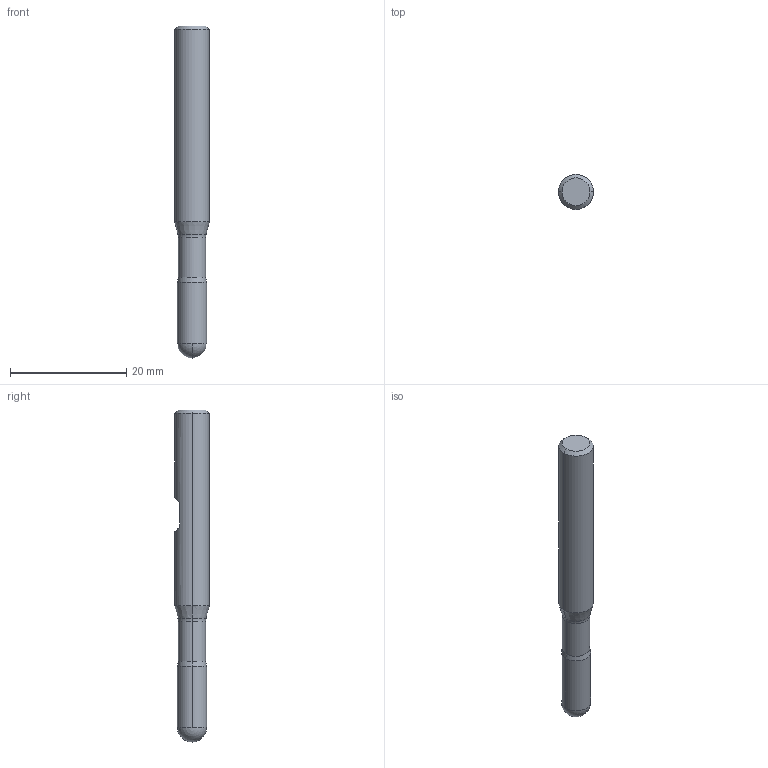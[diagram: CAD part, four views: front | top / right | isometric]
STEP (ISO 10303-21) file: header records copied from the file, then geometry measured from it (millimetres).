
FILE_DESCRIPTION (( 'STEP AP214' ), '1' );
FILE_NAME ('739.051.10_3D-model.step', '2022-02-19T09:34:18', ( '' ), ( '' ), 'SwSTEP 2.0', 'SolidWorks 2020', '' );
FILE_SCHEMA (( 'AUTOMOTIVE_DESIGN' ));
Length unit declared in the file: millimetre
Products named in the file (3): 739.051.10_3D-model; CUT-3D^Baugr33; NOCUT-3D^Baugr33
Assembly tree (2 placements, depth 2):
  739.051.10_3D-model
    CUT-3D^Baugr33
    NOCUT-3D^Baugr33
Bounding box: 6 x 6 x 57 mm (x, y, z)
Volume: 1366.5 mm3; surface area: 1058.2 mm2
Topology: 2 solids, 2 shells, 22 faces, 44 edges, 25 vertices
Faces by surface type: cylinder 6, plane 6, cone 6, sphere 2, torus 2
Entity records: 680 total; most frequent: DIRECTION 124, CARTESIAN_POINT 103, ORIENTED_EDGE 84, AXIS2_PLACEMENT_3D 54, EDGE_CURVE 42, VERTEX_POINT 25, CIRCLE 24, EDGE_LOOP 23
